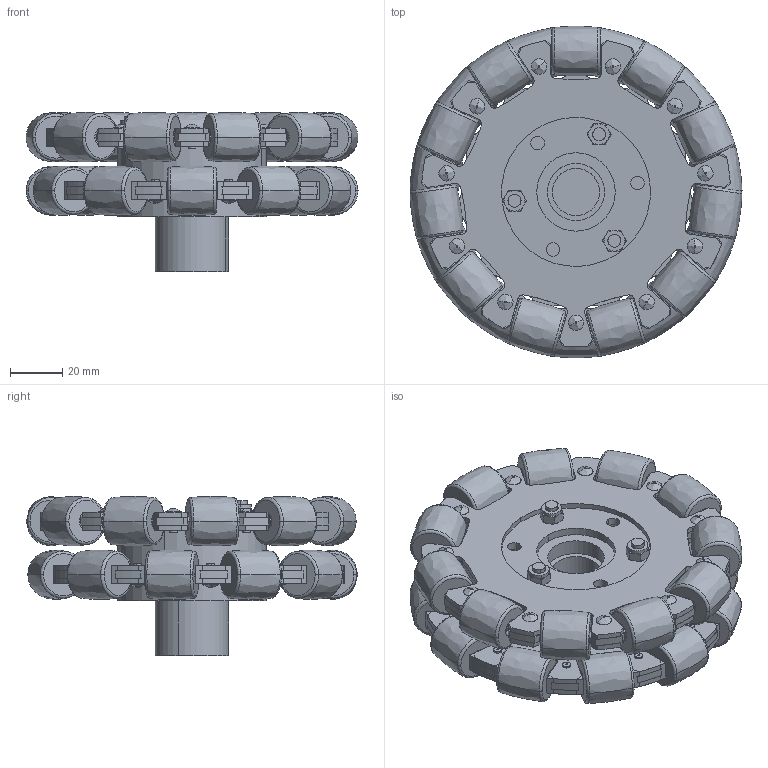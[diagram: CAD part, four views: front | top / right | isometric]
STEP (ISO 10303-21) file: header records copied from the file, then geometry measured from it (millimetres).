
FILE_DESCRIPTION(('Open CASCADE Model'),'2;1');
FILE_NAME('Open CASCADE Shape Model','2026-10-14T14:28:38',('Author'),( 'Open CASCADE'),'Open CASCADE STEP processor 7.7','Open CASCADE 7.7' ,'Unknown');
FILE_SCHEMA(('AUTOMOTIVE_DESIGN { 1 0 10303 214 1 1 1 1 }'));
Length unit declared in the file: millimetre
Products named in the file (22): Open CASCADE STEP translator 7.7 2; Open CASCADE STEP translator 7.7 2.1; Open CASCADE STEP translator 7.7 2.2; Open CASCADE STEP translator 7.7 2.13; Open CASCADE STEP translator 7.7 2.14; Open CASCADE STEP translator 7.7 2.16; Open CASCADE STEP translator 7.7 2.31; Open CASCADE STEP translator 7.7 2.32; Open CASCADE STEP translator 7.7 2.54; Open CASCADE STEP translator 7.7 2.55; Open CASCADE STEP translator 7.7 2.60; Open CASCADE STEP translator 7.7 2.61; Open CASCADE STEP translator 7.7 2.62; Open CASCADE STEP translator 7.7 2.63; Open CASCADE STEP translator 7.7 2.64; Open CASCADE STEP translator 7.7 2.65; Open CASCADE STEP translator 7.7 2.66; Open CASCADE STEP translator 7.7 2.67; Open CASCADE STEP translator 7.7 2.68; Open CASCADE STEP translator 7.7 2.69; Open CASCADE STEP translator 7.7 2.70; Open CASCADE STEP translator 7.7 2.71
Assembly tree (81 placements, depth 2):
  Open CASCADE STEP translator 7.7 2
    Open CASCADE STEP translator 7.7 2.1
    Open CASCADE STEP translator 7.7 2.2  x22
    Open CASCADE STEP translator 7.7 2.13  x4
    Open CASCADE STEP translator 7.7 2.14  x2
    Open CASCADE STEP translator 7.7 2.16
    Open CASCADE STEP translator 7.7 2.31
    Open CASCADE STEP translator 7.7 2.32  x22
    Open CASCADE STEP translator 7.7 2.54  x3
    Open CASCADE STEP translator 7.7 2.55  x3
    Open CASCADE STEP translator 7.7 2.60
    Open CASCADE STEP translator 7.7 2.61
    Open CASCADE STEP translator 7.7 2.62
    Open CASCADE STEP translator 7.7 2.63
    Open CASCADE STEP translator 7.7 2.64
    Open CASCADE STEP translator 7.7 2.65
    Open CASCADE STEP translator 7.7 2.66
    Open CASCADE STEP translator 7.7 2.67
    Open CASCADE STEP translator 7.7 2.68
    Open CASCADE STEP translator 7.7 2.69
    Open CASCADE STEP translator 7.7 2.70
    Open CASCADE STEP translator 7.7 2.71  x11
Bounding box: 126.98 x 126.7 x 60.85 mm (x, y, z)
Volume: 312235.6 mm3; surface area: 170790.5 mm2
Topology: 81 solids, 81 shells, 1836 faces, 4607 edges, 2964 vertices
Faces by surface type: cylinder 823, plane 694, torus 215, bspline 88, cone 16
Entity records: 53582 total; most frequent: CARTESIAN_POINT 14959, DIRECTION 7512, LINE 3869, VECTOR 3869, ORIENTED_EDGE 3726, PCURVE 3726, DEFINITIONAL_REPRESENTATION 3726, EDGE_CURVE 1863
